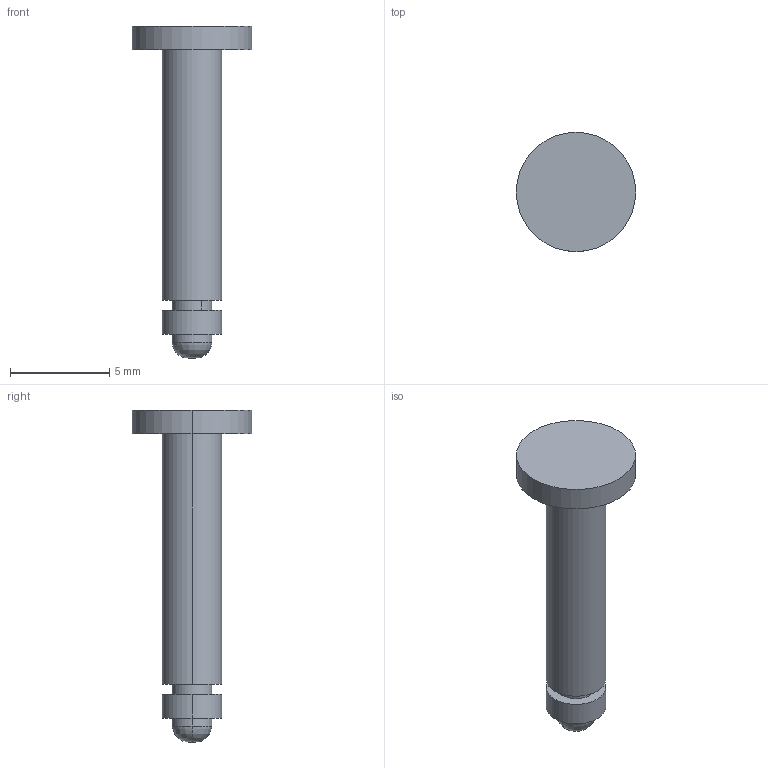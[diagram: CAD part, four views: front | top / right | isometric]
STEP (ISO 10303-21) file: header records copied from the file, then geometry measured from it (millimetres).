
FILE_DESCRIPTION(('CATIA V5 STEP Exchange'),'2;1');
FILE_NAME('G:\够快云库\系统集成开发部\1.部门成员\孙国\座椅控制阀\机加方案\LS42.49_S11 回位柱.stp','2020-04-01T10:18:14+00:00',('none'),('none'),'CATIA Version 5 Release 21 GA (IN-10)','CATIA V5 STEP AP203','none');
FILE_SCHEMA(('CONFIG_CONTROL_DESIGN'));
Length unit declared in the file: millimetre
Products named in the file (1): 回位圆柱
Bounding box: 6 x 6 x 16.7 mm (x, y, z)
Volume: 136.1 mm3; surface area: 225.3 mm2
Topology: 1 solids, 1 shells, 18 faces, 34 edges, 22 vertices
Faces by surface type: cylinder 10, plane 6, revolution 2
Entity records: 464 total; most frequent: CARTESIAN_POINT 79, ORIENTED_EDGE 68, DIRECTION 56, AXIS2_PLACEMENT_3D 35, EDGE_CURVE 34, CIRCLE 24, EDGE_LOOP 22, VERTEX_POINT 22
